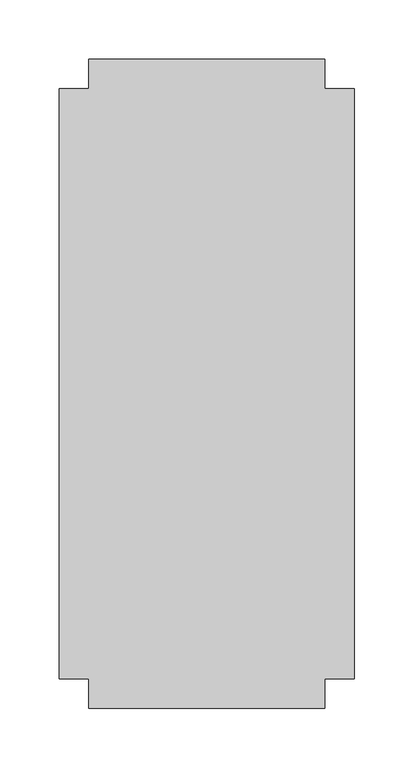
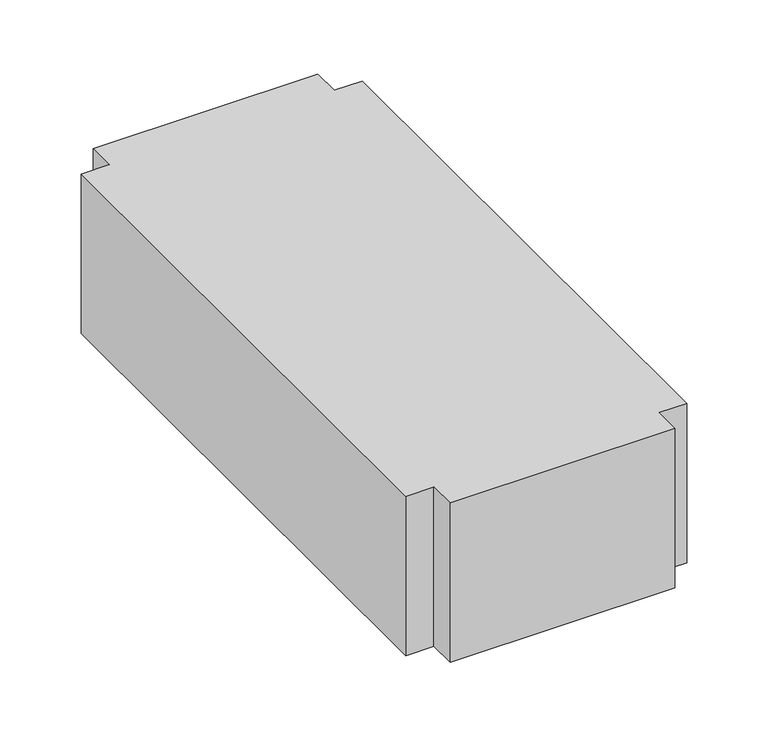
"""IFC4 building model written with IfcOpenShell, lengths in millimetres: duct fitting geometry, M_Cruz rectangular : Estándar."""

from ifc_helpers import new_model, si_unit, frame, origin, place, context, project, spatial, polyline, outline, extrude, source, transform, mapped, element, save


def duct_fitting_df83a792(model_context):
    return source(origin(), model_context, "Body", "SweptSolid", [
        extrude(outline(polyline([(100.0, -275.0), (-100.0, -275.0), (-100.0, -250.0), (-125.0, -250.0), (-125.0, 250.0), (-100.0, 250.0), (-100.0, 275.0), (100.0, 275.0), (100.0, 250.0), (125.0, 250.0), (125.0, -250.0), (100.0, -250.0), (100.0, -275.0)])), frame((0.0, 0.0, -75.0), z_axis=(0.0, 0.0, 1.0), x_axis=(1.0, 0.0, 0.0)), (0.0, 0.0, 1.0), 150.0),
    ])


if __name__ == "__main__":
    model = new_model("IFC4")
    model_context = context("Model", 3, world=origin())
    ifc_project = project(units=[si_unit("LENGTHUNIT", "METRE", prefix="MILLI")], contexts=[model_context])
    site = spatial("IfcSite", under=ifc_project)
    building = spatial("IfcBuilding", under=site)
    placement = place(None, origin())
    duct_fitting_shape = duct_fitting_df83a792(model_context)
    element("IfcDuctFitting", 1, ObjectType="M_Cruz rectangular : Estándar", at=placement, inside=building, context=model_context, shape_type="MappedRepresentation", body=[
        mapped(duct_fitting_shape, transform((0.0, 0.0, 0.0), x_axis=(1.0, 0.0, 0.0), y_axis=(0.0, 1.0, 0.0), z_axis=(0.0, 0.0, 1.0))),
    ])
    save(model, "model.ifc")
